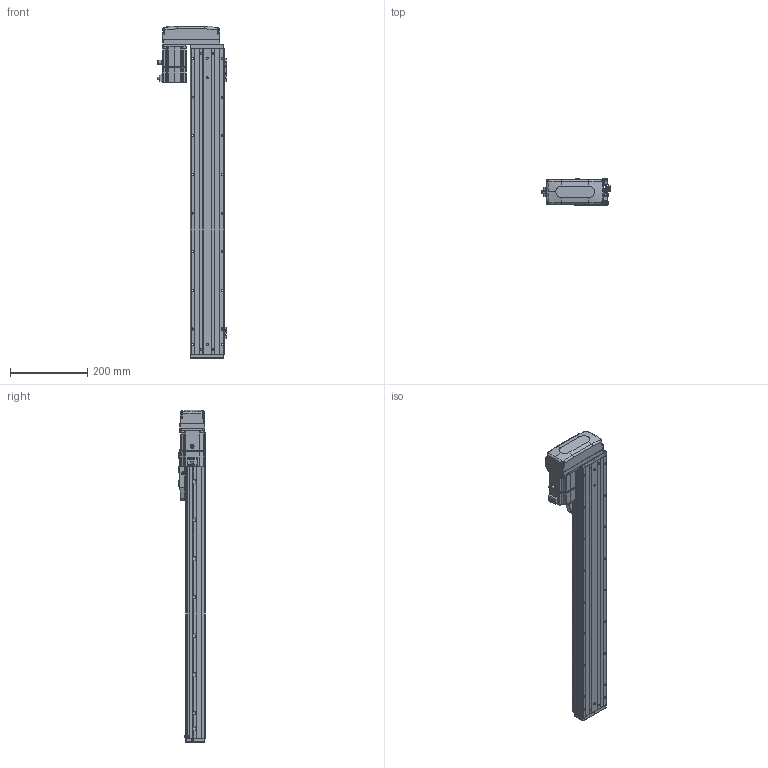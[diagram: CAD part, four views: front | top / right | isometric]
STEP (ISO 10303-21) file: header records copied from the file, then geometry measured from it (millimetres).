
FILE_DESCRIPTION (( 'STEP AP203' ), '1' );
FILE_NAME ('CTHA86-600-BR-M20-C4L.step', '2022-04-26T01:00:38', ( '微软用户' ), ( '微软中国' ), 'SwSTEP 2.0', 'SolidWorks 2020', '' );
FILE_SCHEMA (( 'CONFIG_CONTROL_DESIGN' ));
Length unit declared in the file: millimetre
Products named in the file (21): CTHA86-015-1_CTHA86-015-2; CTHA60-017; CTHA60-016; CTHA86-033; CTHA60-021; _X2_4E0983F1_X0_200W_1; CTHA86-600-BR-M20-C4L; KTHA86-001_790; GBT77-2000 M3×3; CTHA86-002; KTHA86-004; GBT 70.1-M3×20; CTHA86-031; KTHA86-005; GBT70.1 M5℅16; CTHA86-030; GB¨uT 70.2-M3¡Á5_M3¡Á6; GBT 70.1-M3×16; GBT 70.3-M3℅6; EE_SX911P_R; GBT 70.1-M3℅6
Assembly tree (66 placements, depth 2):
  CTHA86-600-BR-M20-C4L
    KTHA86-001_790
    KTHA86-004
    KTHA86-005
    GB¨uT 70.2-M3¡Á5_M3¡Á6  x10
    EE_SX911P_R  x3
    CTHA60-017  x3
    CTHA60-021  x2
    GBT77-2000 M3×3  x6
    GBT 70.1-M3×20
    GBT70.1 M5℅16  x14
    GBT 70.1-M3×16  x5
    GBT 70.1-M3℅6  x6
    CTHA60-016  x2
    _X2_4E0983F1_X0_200W_1
    CTHA86-002
    CTHA86-031
    CTHA86-030  x2
    GBT 70.3-M3℅6  x4
    CTHA86-015-1_CTHA86-015-2
    CTHA86-033
Bounding box: 178.52 x 68 x 859 mm (x, y, z)
Volume: 3426026.3 mm3; surface area: 594810.7 mm2
Topology: 68 solids, 68 shells, 2786 faces, 6652 edges, 4096 vertices
Faces by surface type: plane 1463, cylinder 723, cone 369, torus 132, bspline 75, sphere 24
Entity records: 49081 total; most frequent: CARTESIAN_POINT 9507, DIRECTION 7629, ORIENTED_EDGE 7404, EDGE_CURVE 3702, AXIS2_PLACEMENT_3D 2602, VECTOR 2425, LINE 2425, VERTEX_POINT 2328
